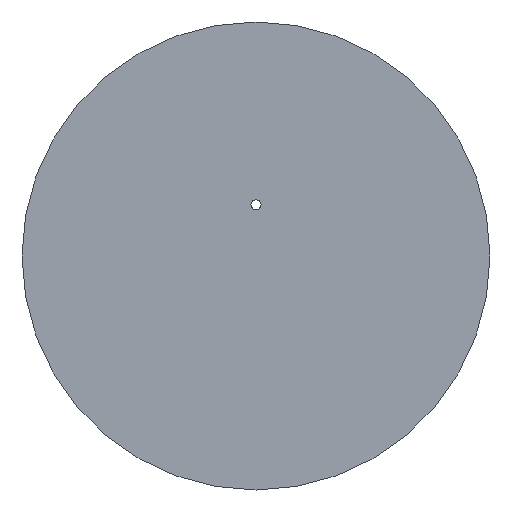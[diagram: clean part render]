
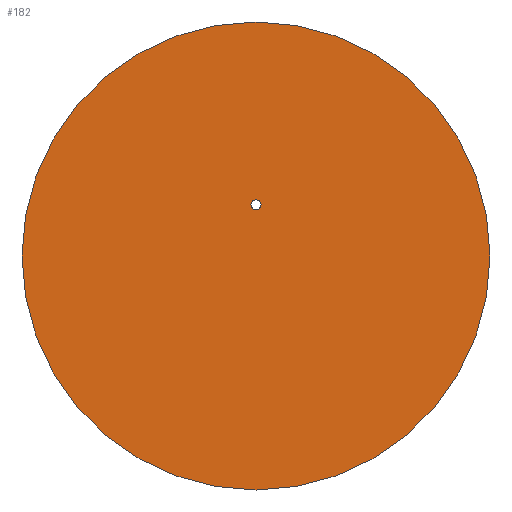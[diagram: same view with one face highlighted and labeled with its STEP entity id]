
A CAD part, left-side view. The second image highlights one B-rep face of the part: STEP entity #182.
In plain terms, the highlighted planar face has unit normal (-1, 0, 0).
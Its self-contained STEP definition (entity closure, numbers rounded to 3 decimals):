
#123=CARTESIAN_POINT('',(-1.8,0.,39.5));
#124=VERTEX_POINT('',#123);
#131=CARTESIAN_POINT('',(-1.8,0.,0.));
#132=DIRECTION('',(0.,0.,1.));
#133=DIRECTION('',(1.,0.,0.));
#134=AXIS2_PLACEMENT_3D('',#131,#133,#132);
#135=CIRCLE('',#134,39.5);
#136=EDGE_CURVE('',#124,#124,#135,.T.);
#163=CARTESIAN_POINT('',(-1.8,0.,0.));
#164=DIRECTION('',(0.,0.,1.));
#165=DIRECTION('',(-1.,0.,0.));
#166=AXIS2_PLACEMENT_3D('',#163,#165,#164);
#167=PLANE('',#166);
#168=ORIENTED_EDGE('',*,*,#136,.F.);
#169=EDGE_LOOP('',(#168));
#170=FACE_OUTER_BOUND('',#169,.T.);
#171=CARTESIAN_POINT('',(-1.8,0.,9.5));
#172=VERTEX_POINT('',#171);
#173=CARTESIAN_POINT('',(-1.8,0.,8.65));
#174=DIRECTION('',(0.,0.,1.));
#175=DIRECTION('',(1.,0.,0.));
#176=AXIS2_PLACEMENT_3D('',#173,#175,#174);
#177=CIRCLE('',#176,0.85);
#178=EDGE_CURVE('',#172,#172,#177,.T.);
#179=ORIENTED_EDGE('E11',*,*,#178,.T.);
#180=EDGE_LOOP('',(#179));
#181=FACE_BOUND('',#180,.T.);
#182=ADVANCED_FACE('F13',(#170,#181),#167,.T.);
